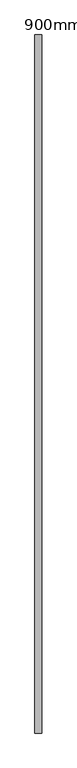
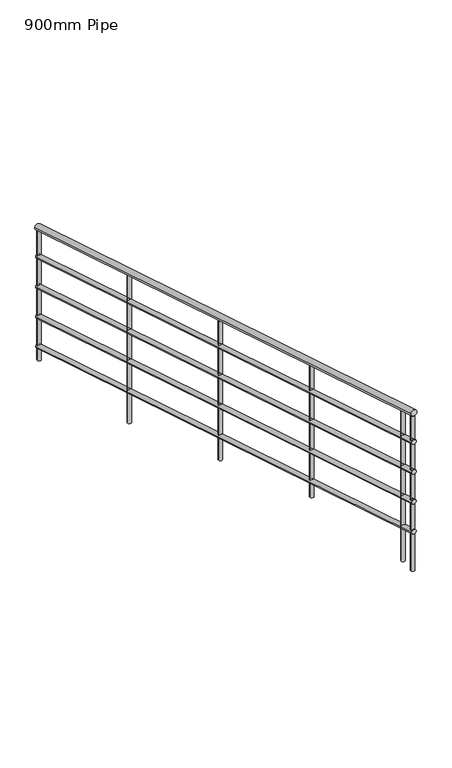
"""IFC4 building model written with IfcOpenShell, lengths in millimetres: railing geometry, 900mm Pipe."""

from ifc_helpers import new_model, si_unit, frame, origin, place, context, project, spatial, circle_curve, ellipse_curve, source, transform, mapped, element, save
from ifc_brep_helpers import plane_surface, cylinder_surface, advanced_brep


def railing_900mm_pipe_595f3362(model_context):
    return source(origin(), model_context, "Body", "AdvancedBrep", [
        advanced_brep(
        [(983189.0192027, 43219.4234438, 6058.386247), (983229.0192027, 43219.4234438, 6058.386247), (983189.0192027, 39100.5480399, 7313.4450705), (983229.0192027, 39100.5480399, 7313.4450705)],
        [
            (0, 1, ellipse_curve(frame((983209.0192027, 43219.4234438, 6058.386247), z_axis=(0.0, 1.0, 0.0), x_axis=(0.0, 0.0, -1.0)), 20.9078706, 20.0)),
            (1, 0, ellipse_curve(frame((983209.0192027, 43219.4234438, 6058.386247), z_axis=(0.0, 1.0, 0.0), x_axis=(0.0, 0.0, -1.0)), 20.9078706, 20.0)),
            (2, 3, ellipse_curve(frame((983209.0192027, 39100.5480399, 7313.4450705), z_axis=(0.0, -1.0, 0.0), x_axis=(0.0, 0.0, -1.0)), 20.9078706, 20.0)),
            (3, 2, ellipse_curve(frame((983209.0192027, 39100.5480399, 7313.4450705), z_axis=(0.0, -1.0, 0.0), x_axis=(0.0, 0.0, -1.0)), 20.9078706, 20.0)),
            (1, 3),
            (2, 0),
        ],
        [
            plane_surface(frame((983209.0192027, 43219.4234438, 6079.2941176), z_axis=(0.0, 1.0, 0.0), x_axis=(0.0, 0.0, -1.0))),
            plane_surface(frame((983209.0192027, 39100.5480399, 7334.3529412), z_axis=(0.0, -1.0, 0.0), x_axis=(0.0, 0.0, -1.0))),
            cylinder_surface(frame((983209.0192027, 43213.593886, 6060.1625663), z_axis=(0.0, 0.9565775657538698, -0.29147789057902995), x_axis=(1.0, 0.0, 0.0)), 20.0),
        ],
        [
            (0, [[1, 2]]),
            (1, [[3, 4]]),
            (2, [[-2, 5, -3, 6]]),
            (2, [[-1, -6, -4, -5]]),
        ],
    ),
        advanced_brep(
        [(983194.0192027, 43219.4234438, 5863.6132147), (983224.0192027, 43219.4234438, 5863.6132147), (983194.0192027, 39100.5480399, 7118.6720382), (983224.0192027, 39100.5480399, 7118.6720382)],
        [
            (0, 1, ellipse_curve(frame((983209.0192027, 43219.4234438, 5863.6132147), z_axis=(0.0, 1.0, 0.0), x_axis=(0.0, 0.0, -1.0)), 15.680903, 15.0)),
            (1, 0, ellipse_curve(frame((983209.0192027, 43219.4234438, 5863.6132147), z_axis=(0.0, 1.0, 0.0), x_axis=(0.0, 0.0, -1.0)), 15.680903, 15.0)),
            (2, 3, ellipse_curve(frame((983209.0192027, 39100.5480399, 7118.6720382), z_axis=(0.0, -1.0, 0.0), x_axis=(0.0, 0.0, -1.0)), 15.680903, 15.0)),
            (3, 2, ellipse_curve(frame((983209.0192027, 39100.5480399, 7118.6720382), z_axis=(0.0, -1.0, 0.0), x_axis=(0.0, 0.0, -1.0)), 15.680903, 15.0)),
            (0, 2),
            (3, 1),
        ],
        [
            plane_surface(frame((983209.0192027, 43219.4234438, 5879.2941176), z_axis=(0.0, 1.0, 0.0), x_axis=(0.0, 0.0, -1.0))),
            plane_surface(frame((983209.0192027, 39100.5480399, 7134.3529412), z_axis=(0.0, -1.0, 0.0), x_axis=(0.0, 0.0, -1.0))),
            cylinder_surface(frame((983209.0192027, 43215.0512754, 5864.9454542), z_axis=(0.0, 0.9565775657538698, -0.29147789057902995), x_axis=(1.0, 0.0, 0.0)), 15.0),
        ],
        [
            (0, [[1, 2]]),
            (1, [[3, 4]]),
            (2, [[-1, 5, -4, 6]]),
            (2, [[-2, -6, -3, -5]]),
        ],
    ),
        advanced_brep(
        [(983194.0192027, 43219.4234438, 5663.6132147), (983224.0192027, 43219.4234438, 5663.6132147), (983194.0192027, 39100.5480399, 6918.6720382), (983224.0192027, 39100.5480399, 6918.6720382)],
        [
            (0, 1, ellipse_curve(frame((983209.0192027, 43219.4234438, 5663.6132147), z_axis=(0.0, 1.0, 0.0), x_axis=(0.0, 0.0, -1.0)), 15.680903, 15.0)),
            (1, 0, ellipse_curve(frame((983209.0192027, 43219.4234438, 5663.6132147), z_axis=(0.0, 1.0, 0.0), x_axis=(0.0, 0.0, -1.0)), 15.680903, 15.0)),
            (2, 3, ellipse_curve(frame((983209.0192027, 39100.5480399, 6918.6720382), z_axis=(0.0, -1.0, 0.0), x_axis=(0.0, 0.0, -1.0)), 15.680903, 15.0)),
            (3, 2, ellipse_curve(frame((983209.0192027, 39100.5480399, 6918.6720382), z_axis=(0.0, -1.0, 0.0), x_axis=(0.0, 0.0, -1.0)), 15.680903, 15.0)),
            (0, 2),
            (3, 1),
        ],
        [
            plane_surface(frame((983209.0192027, 43219.4234438, 5679.2941176), z_axis=(0.0, 1.0, 0.0), x_axis=(0.0, 0.0, -1.0))),
            plane_surface(frame((983209.0192027, 39100.5480399, 6934.3529412), z_axis=(0.0, -1.0, 0.0), x_axis=(0.0, 0.0, -1.0))),
            cylinder_surface(frame((983209.0192027, 43215.0512754, 5664.9454542), z_axis=(0.0, 0.9565775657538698, -0.29147789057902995), x_axis=(1.0, 0.0, 0.0)), 15.0),
        ],
        [
            (0, [[1, 2]]),
            (1, [[3, 4]]),
            (2, [[-1, 5, -4, 6]]),
            (2, [[-2, -6, -3, -5]]),
        ],
    ),
        advanced_brep(
        [(983194.0192027, 43219.4234438, 5463.6132147), (983224.0192027, 43219.4234438, 5463.6132147), (983194.0192027, 39100.5480399, 6718.6720382), (983224.0192027, 39100.5480399, 6718.6720382)],
        [
            (0, 1, ellipse_curve(frame((983209.0192027, 43219.4234438, 5463.6132147), z_axis=(0.0, 1.0, 0.0), x_axis=(0.0, 0.0, -1.0)), 15.680903, 15.0)),
            (1, 0, ellipse_curve(frame((983209.0192027, 43219.4234438, 5463.6132147), z_axis=(0.0, 1.0, 0.0), x_axis=(0.0, 0.0, -1.0)), 15.680903, 15.0)),
            (2, 3, ellipse_curve(frame((983209.0192027, 39100.5480399, 6718.6720382), z_axis=(0.0, -1.0, 0.0), x_axis=(0.0, 0.0, -1.0)), 15.680903, 15.0)),
            (3, 2, ellipse_curve(frame((983209.0192027, 39100.5480399, 6718.6720382), z_axis=(0.0, -1.0, 0.0), x_axis=(0.0, 0.0, -1.0)), 15.680903, 15.0)),
            (0, 2),
            (3, 1),
        ],
        [
            plane_surface(frame((983209.0192027, 43219.4234438, 5479.2941176), z_axis=(0.0, 1.0, 0.0), x_axis=(0.0, 0.0, -1.0))),
            plane_surface(frame((983209.0192027, 39100.5480399, 6734.3529412), z_axis=(0.0, -1.0, 0.0), x_axis=(0.0, 0.0, -1.0))),
            cylinder_surface(frame((983209.0192027, 43215.0512754, 5464.9454542), z_axis=(0.0, 0.9565775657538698, -0.29147789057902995), x_axis=(1.0, 0.0, 0.0)), 15.0),
        ],
        [
            (0, [[1, 2]]),
            (1, [[3, 4]]),
            (2, [[-1, 5, -4, 6]]),
            (2, [[-2, -6, -3, -5]]),
        ],
    ),
        advanced_brep(
        [(983194.0192027, 43219.4234438, 5263.6132147), (983224.0192027, 43219.4234438, 5263.6132147), (983194.0192027, 39100.5480399, 6518.6720382), (983224.0192027, 39100.5480399, 6518.6720382)],
        [
            (0, 1, ellipse_curve(frame((983209.0192027, 43219.4234438, 5263.6132147), z_axis=(0.0, 1.0, 0.0), x_axis=(0.0, 0.0, -1.0)), 15.680903, 15.0)),
            (1, 0, ellipse_curve(frame((983209.0192027, 43219.4234438, 5263.6132147), z_axis=(0.0, 1.0, 0.0), x_axis=(0.0, 0.0, -1.0)), 15.680903, 15.0)),
            (2, 3, ellipse_curve(frame((983209.0192027, 39100.5480399, 6518.6720382), z_axis=(0.0, -1.0, 0.0), x_axis=(0.0, 0.0, -1.0)), 15.680903, 15.0)),
            (3, 2, ellipse_curve(frame((983209.0192027, 39100.5480399, 6518.6720382), z_axis=(0.0, -1.0, 0.0), x_axis=(0.0, 0.0, -1.0)), 15.680903, 15.0)),
            (0, 2),
            (3, 1),
        ],
        [
            plane_surface(frame((983209.0192027, 43219.4234438, 5279.2941176), z_axis=(0.0, 1.0, 0.0), x_axis=(0.0, 0.0, -1.0))),
            plane_surface(frame((983209.0192027, 39100.5480399, 6534.3529412), z_axis=(0.0, -1.0, 0.0), x_axis=(0.0, 0.0, -1.0))),
            cylinder_surface(frame((983209.0192027, 43215.0512754, 5264.9454542), z_axis=(0.0, 0.9565775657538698, -0.29147789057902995), x_axis=(1.0, 0.0, 0.0)), 15.0),
        ],
        [
            (0, [[1, 2]]),
            (1, [[3, 4]]),
            (2, [[-1, 5, -4, 6]]),
            (2, [[-2, -6, -3, -5]]),
        ],
    ),
        advanced_brep(
        [(983221.5192027, 39219.4234438, 7256.3147824), (983196.5192027, 39219.4234438, 7256.3147824), (983196.5192027, 39219.4234438, 6255.0588235), (983221.5192027, 39219.4234438, 6255.0588235)],
        [
            (0, 1, ellipse_curve(frame((983209.0192027, 39219.4234438, 7256.3147824), z_axis=(0.0, -0.2914778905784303, -0.9565775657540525), x_axis=(0.0, -0.9565775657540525, 0.2914778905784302)), 13.0674191, 12.5)),
            (1, 2),
            (2, 3, circle_curve(frame((983209.0192027, 39219.4234438, 6255.0588235), z_axis=(0.0, 0.0, 1.0), x_axis=(-1.0, 0.0, 0.0)), 12.5)),
            (3, 0),
            (3, 2, circle_curve(frame((983209.0192027, 39219.4234438, 6255.0588235), z_axis=(0.0, 0.0, 1.0), x_axis=(-1.0, 0.0, 0.0)), 12.5)),
            (1, 0, ellipse_curve(frame((983209.0192027, 39219.4234438, 7256.3147824), z_axis=(0.0, -0.2914778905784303, -0.9565775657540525), x_axis=(0.0, -0.9565775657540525, 0.2914778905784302)), 13.0674191, 12.5)),
        ],
        [
            cylinder_surface(frame((983209.0192027, 39219.4234438, 6155.0588235), z_axis=(0.0, 0.0, 1.0), x_axis=(-1.0, 0.0, 0.0)), 12.5),
            plane_surface(frame((983184.0192027, 39194.4234438, 7263.9325099), z_axis=(0.0, 0.2914778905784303, 0.9565775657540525), x_axis=(1.0, 0.0, 0.0))),
            plane_surface(frame((983184.0192027, 39244.4234438, 6255.0588235), z_axis=(0.0, 0.0, -1.0), x_axis=(1.0, 0.0, 0.0))),
        ],
        [
            (0, [[1, 2, 3, 4]]),
            (0, [[5, -2, 6, -4]]),
            (1, [[-6, -1]]),
            (2, [[-5, -3]]),
        ],
    ),
        advanced_brep(
        [(983221.5192027, 40219.4234438, 6951.6056809), (983196.5192027, 40219.4234438, 6951.6056809), (983196.5192027, 40219.4234438, 6075.7647059), (983221.5192027, 40219.4234438, 6075.7647059)],
        [
            (0, 1, ellipse_curve(frame((983209.0192027, 40219.4234438, 6951.6056809), z_axis=(0.0, -0.2914778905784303, -0.9565775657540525), x_axis=(0.0, -0.9565775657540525, 0.2914778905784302)), 13.0674191, 12.5)),
            (1, 2),
            (2, 3, circle_curve(frame((983209.0192027, 40219.4234438, 6075.7647059), z_axis=(0.0, 0.0, 1.0), x_axis=(-1.0, 0.0, 0.0)), 12.5)),
            (3, 0),
            (3, 2, circle_curve(frame((983209.0192027, 40219.4234438, 6075.7647059), z_axis=(0.0, 0.0, 1.0), x_axis=(-1.0, 0.0, 0.0)), 12.5)),
            (1, 0, ellipse_curve(frame((983209.0192027, 40219.4234438, 6951.6056809), z_axis=(0.0, -0.2914778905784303, -0.9565775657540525), x_axis=(0.0, -0.9565775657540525, 0.2914778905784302)), 13.0674191, 12.5)),
        ],
        [
            cylinder_surface(frame((983209.0192027, 40219.4234438, 5975.7647059), z_axis=(0.0, 0.0, 1.0), x_axis=(-1.0, 0.0, 0.0)), 12.5),
            plane_surface(frame((983184.0192027, 40194.4234438, 6959.2234084), z_axis=(0.0, 0.2914778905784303, 0.9565775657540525), x_axis=(1.0, 0.0, 0.0))),
            plane_surface(frame((983184.0192027, 40244.4234438, 6075.7647059), z_axis=(0.0, 0.0, -1.0), x_axis=(1.0, 0.0, 0.0))),
        ],
        [
            (0, [[1, 2, 3, 4]]),
            (0, [[5, -2, 6, -4]]),
            (1, [[-6, -1]]),
            (2, [[-5, -3]]),
        ],
    ),
        advanced_brep(
        [(983221.5192027, 41219.4234438, 6646.8965794), (983196.5192027, 41219.4234438, 6646.8965794), (983196.5192027, 41219.4234438, 5717.1764706), (983221.5192027, 41219.4234438, 5717.1764706)],
        [
            (0, 1, ellipse_curve(frame((983209.0192027, 41219.4234438, 6646.8965794), z_axis=(0.0, -0.2914778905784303, -0.9565775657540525), x_axis=(0.0, -0.9565775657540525, 0.2914778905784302)), 13.0674191, 12.5)),
            (1, 2),
            (2, 3, circle_curve(frame((983209.0192027, 41219.4234438, 5717.1764706), z_axis=(0.0, 0.0, 1.0), x_axis=(-1.0, 0.0, 0.0)), 12.5)),
            (3, 0),
            (3, 2, circle_curve(frame((983209.0192027, 41219.4234438, 5717.1764706), z_axis=(0.0, 0.0, 1.0), x_axis=(-1.0, 0.0, 0.0)), 12.5)),
            (1, 0, ellipse_curve(frame((983209.0192027, 41219.4234438, 6646.8965794), z_axis=(0.0, -0.2914778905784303, -0.9565775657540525), x_axis=(0.0, -0.9565775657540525, 0.2914778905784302)), 13.0674191, 12.5)),
        ],
        [
            cylinder_surface(frame((983209.0192027, 41219.4234438, 5617.1764706), z_axis=(0.0, 0.0, 1.0), x_axis=(-1.0, 0.0, 0.0)), 12.5),
            plane_surface(frame((983184.0192027, 41194.4234438, 6654.5143069), z_axis=(0.0, 0.2914778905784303, 0.9565775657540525), x_axis=(1.0, 0.0, 0.0))),
            plane_surface(frame((983184.0192027, 41244.4234438, 5717.1764706), z_axis=(0.0, 0.0, -1.0), x_axis=(1.0, 0.0, 0.0))),
        ],
        [
            (0, [[1, 2, 3, 4]]),
            (0, [[5, -2, 6, -4]]),
            (1, [[-6, -1]]),
            (2, [[-5, -3]]),
        ],
    ),
        advanced_brep(
        [(983221.5192027, 42219.4234438, 6342.1874779), (983196.5192027, 42219.4234438, 6342.1874779), (983196.5192027, 42219.4234438, 5358.5882353), (983221.5192027, 42219.4234438, 5358.5882353)],
        [
            (0, 1, ellipse_curve(frame((983209.0192027, 42219.4234438, 6342.1874779), z_axis=(0.0, -0.2914778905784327, -0.9565775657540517), x_axis=(0.0, -0.9565775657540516, 0.29147789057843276)), 13.0674191, 12.5)),
            (1, 2),
            (2, 3, circle_curve(frame((983209.0192027, 42219.4234438, 5358.5882353), z_axis=(0.0, 0.0, 1.0), x_axis=(-1.0, 0.0, 0.0)), 12.5)),
            (3, 0),
            (3, 2, circle_curve(frame((983209.0192027, 42219.4234438, 5358.5882353), z_axis=(0.0, 0.0, 1.0), x_axis=(-1.0, 0.0, 0.0)), 12.5)),
            (1, 0, ellipse_curve(frame((983209.0192027, 42219.4234438, 6342.1874779), z_axis=(0.0, -0.2914778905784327, -0.9565775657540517), x_axis=(0.0, -0.9565775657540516, 0.29147789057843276)), 13.0674191, 12.5)),
        ],
        [
            cylinder_surface(frame((983209.0192027, 42219.4234438, 5258.5882353), z_axis=(0.0, 0.0, 1.0), x_axis=(-1.0, 0.0, 0.0)), 12.5),
            plane_surface(frame((983184.0192027, 42194.4234438, 6349.8052054), z_axis=(0.0, 0.2914778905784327, 0.9565775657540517), x_axis=(1.0, 0.0, 0.0))),
            plane_surface(frame((983184.0192027, 42244.4234438, 5358.5882353), z_axis=(0.0, 0.0, -1.0), x_axis=(1.0, 0.0, 0.0))),
        ],
        [
            (0, [[1, 2, 3, 4]]),
            (0, [[5, -2, 6, -4]]),
            (1, [[-6, -1]]),
            (2, [[-5, -3]]),
        ],
    ),
        advanced_brep(
        [(983221.5192027, 39113.0480399, 7288.7283361), (983196.5192027, 39113.0480399, 7288.7283361), (983196.5192027, 39113.0480399, 6255.0588235), (983221.5192027, 39113.0480399, 6255.0588235)],
        [
            (0, 1, ellipse_curve(frame((983209.0192027, 39113.0480399, 7288.7283361), z_axis=(0.0, -0.2914778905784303, -0.9565775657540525), x_axis=(0.0, -0.9565775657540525, 0.2914778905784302)), 13.0674191, 12.5)),
            (1, 2),
            (2, 3, circle_curve(frame((983209.0192027, 39113.0480399, 6255.0588235), z_axis=(0.0, 0.0, 1.0), x_axis=(-1.0, 0.0, 0.0)), 12.5)),
            (3, 0),
            (3, 2, circle_curve(frame((983209.0192027, 39113.0480399, 6255.0588235), z_axis=(0.0, 0.0, 1.0), x_axis=(-1.0, 0.0, 0.0)), 12.5)),
            (1, 0, ellipse_curve(frame((983209.0192027, 39113.0480399, 7288.7283361), z_axis=(0.0, -0.2914778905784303, -0.9565775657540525), x_axis=(0.0, -0.9565775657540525, 0.2914778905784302)), 13.0674191, 12.5)),
        ],
        [
            cylinder_surface(frame((983209.0192027, 39113.0480399, 6155.0588235), z_axis=(0.0, 0.0, 1.0), x_axis=(-1.0, 0.0, 0.0)), 12.5),
            plane_surface(frame((983184.0192027, 39088.0480399, 7296.3460637), z_axis=(0.0, 0.2914778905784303, 0.9565775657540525), x_axis=(1.0, 0.0, 0.0))),
            plane_surface(frame((983184.0192027, 39138.0480399, 6255.0588235), z_axis=(0.0, 0.0, -1.0), x_axis=(1.0, 0.0, 0.0))),
        ],
        [
            (0, [[1, 2, 3, 4]]),
            (0, [[5, -2, 6, -4]]),
            (1, [[-6, -1]]),
            (2, [[-5, -3]]),
        ],
    ),
        advanced_brep(
        [(983221.5192027, 43206.9234438, 6041.2872401), (983196.5192027, 43206.9234438, 6041.2872401), (983196.5192027, 43206.9234438, 5179.2941176), (983221.5192027, 43206.9234438, 5179.2941176)],
        [
            (0, 1, ellipse_curve(frame((983209.0192027, 43206.9234438, 6041.2872401), z_axis=(0.0, -0.2914778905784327, -0.9565775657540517), x_axis=(0.0, -0.9565775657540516, 0.29147789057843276)), 13.0674191, 12.5)),
            (1, 2),
            (2, 3, circle_curve(frame((983209.0192027, 43206.9234438, 5179.2941176), z_axis=(0.0, 0.0, 1.0), x_axis=(-1.0, 0.0, 0.0)), 12.5)),
            (3, 0),
            (3, 2, circle_curve(frame((983209.0192027, 43206.9234438, 5179.2941176), z_axis=(0.0, 0.0, 1.0), x_axis=(-1.0, 0.0, 0.0)), 12.5)),
            (1, 0, ellipse_curve(frame((983209.0192027, 43206.9234438, 6041.2872401), z_axis=(0.0, -0.2914778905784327, -0.9565775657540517), x_axis=(0.0, -0.9565775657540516, 0.29147789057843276)), 13.0674191, 12.5)),
        ],
        [
            cylinder_surface(frame((983209.0192027, 43206.9234438, 5079.2941176), z_axis=(0.0, 0.0, 1.0), x_axis=(-1.0, 0.0, 0.0)), 12.5),
            plane_surface(frame((983184.0192027, 43181.9234438, 6048.9049677), z_axis=(0.0, 0.2914778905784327, 0.9565775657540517), x_axis=(1.0, 0.0, 0.0))),
            plane_surface(frame((983184.0192027, 43231.9234438, 5179.2941176), z_axis=(0.0, 0.0, -1.0), x_axis=(1.0, 0.0, 0.0))),
        ],
        [
            (0, [[1, 2, 3, 4]]),
            (0, [[5, -2, 6, -4]]),
            (1, [[-6, -1]]),
            (2, [[-5, -3]]),
        ],
    ),
    ])


if __name__ == "__main__":
    model = new_model("IFC4")
    model_context = context("Model", 3, world=origin())
    ifc_project = project(units=[si_unit("LENGTHUNIT", "METRE", prefix="MILLI")], contexts=[model_context])
    site = spatial("IfcSite", under=ifc_project)
    building = spatial("IfcBuilding", under=site)
    placement = place(None, origin())
    railing_900mm_pipe_shape = railing_900mm_pipe_595f3362(model_context)
    element("IfcRailing", 1, ObjectType="900mm Pipe", at=placement, inside=building, context=model_context, shape_type="MappedRepresentation", body=[
        mapped(railing_900mm_pipe_shape, transform((0.0, 0.0, 0.0), x_axis=(1.0, 0.0, 0.0), y_axis=(0.0, 1.0, 0.0), z_axis=(0.0, 0.0, 1.0))),
    ])
    save(model, "model.ifc")
